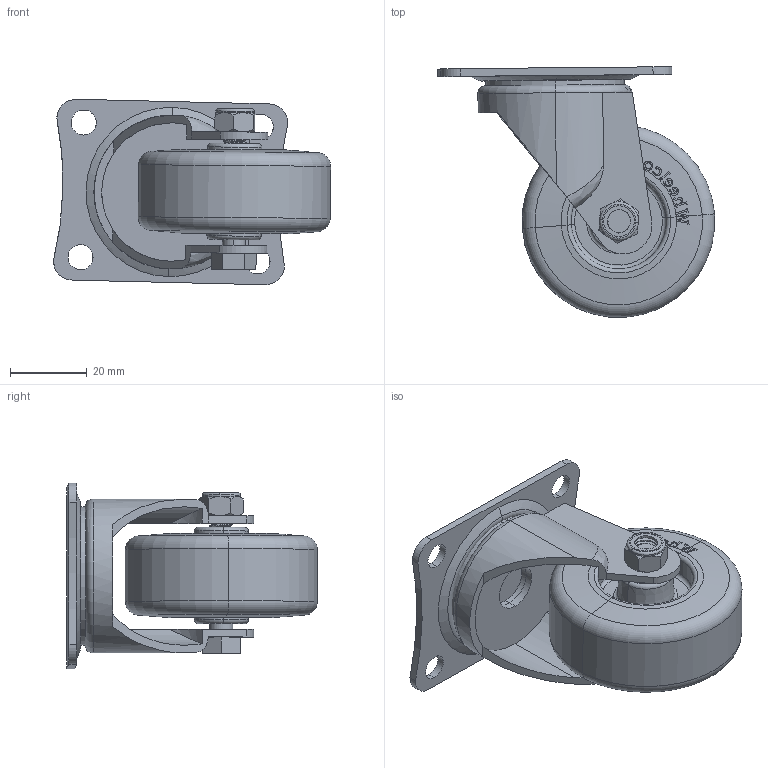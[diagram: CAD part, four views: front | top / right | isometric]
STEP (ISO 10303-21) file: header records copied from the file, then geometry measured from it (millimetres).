
FILE_DESCRIPTION (( 'STEP AP214' ), '1' );
FILE_NAME ('WLU50-P.step', '2024-01-15T01:51:31', ( '' ), ( '' ), 'SwSTEP 2.0', 'SolidWorks 2022', '' );
FILE_SCHEMA (( 'AUTOMOTIVE_DESIGN' ));
Length unit declared in the file: millimetre
Products named in the file (6): WLU50-P; 60X47; WL50-P; M6NYLOC-WHITE; WLU50; M6X35
Assembly tree (5 placements, depth 2):
  WLU50-P
    60X47
    WL50-P
    WLU50
    M6X35
    M6NYLOC-WHITE
Bounding box: 71.98 x 65.06 x 48.19 mm (x, y, z)
Volume: 55008.8 mm3; surface area: 23903.4 mm2
Topology: 5 solids, 5 shells, 555 faces, 1458 edges, 947 vertices
Faces by surface type: plane 255, bspline 155, cylinder 85, cone 32, torus 28
Entity records: 28178 total; most frequent: CARTESIAN_POINT 15242, ORIENTED_EDGE 2916, DIRECTION 1928, EDGE_CURVE 1458, VERTEX_POINT 947, VECTOR 750, LINE 750, EDGE_LOOP 607
